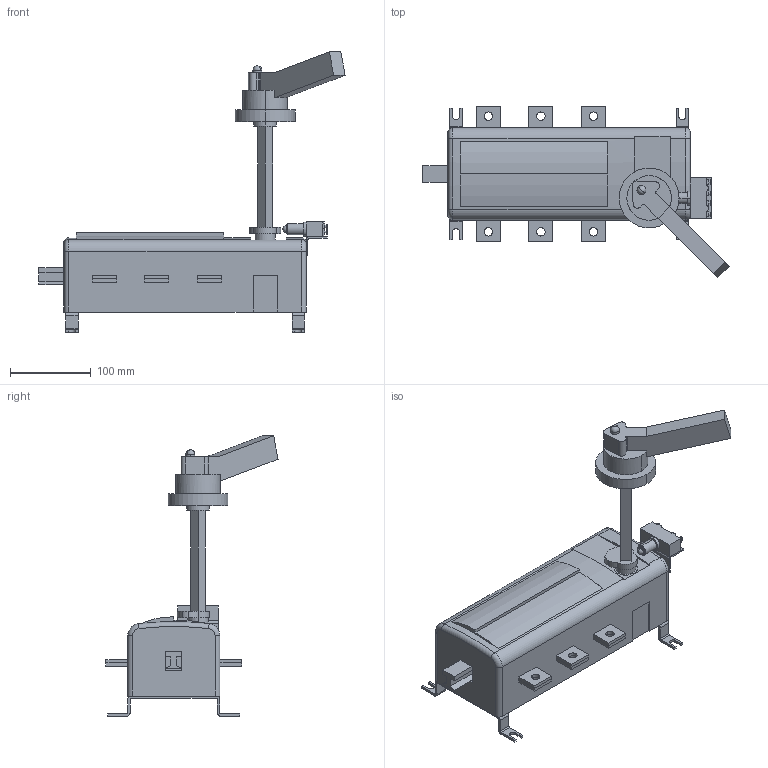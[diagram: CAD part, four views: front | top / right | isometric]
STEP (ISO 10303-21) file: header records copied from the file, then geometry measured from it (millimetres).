
FILE_DESCRIPTION (( 'STEP AP214' ), '1' );
FILE_NAME ('Âûêëþ÷àòåëü íàãðóçêè ÂÍÊ-37-31131-400À-IP32-ÓÕË3-ÊÝÀÇ.STEP', '2023-04-19T11:41:17', ( '' ), ( '' ), 'SwSTEP 2.0', 'SolidWorks 2018', '' );
FILE_SCHEMA (( 'AUTOMOTIVE_DESIGN' ));
Length unit declared in the file: millimetre
Products named in the file (1): Âûêëþ÷àòåëü íàãðóçêè ÂÍÊ-37-31131-400À-IP32-ÓÕË3-ÊÝÀÇ
Bounding box: 379 x 212.99 x 346.99 mm (x, y, z)
Volume: 3436908.2 mm3; surface area: 235240.2 mm2
Topology: 13 solids, 13 shells, 372 faces, 936 edges, 619 vertices
Faces by surface type: plane 244, cylinder 112, torus 6, cone 6, sphere 4
Entity records: 15391 total; most frequent: DIRECTION 1950, CARTESIAN_POINT 1925, ORIENTED_EDGE 1856, EDGE_CURVE 928, AXIS2_PLACEMENT_3D 652, LINE 646, VECTOR 646, VERTEX_POINT 615
